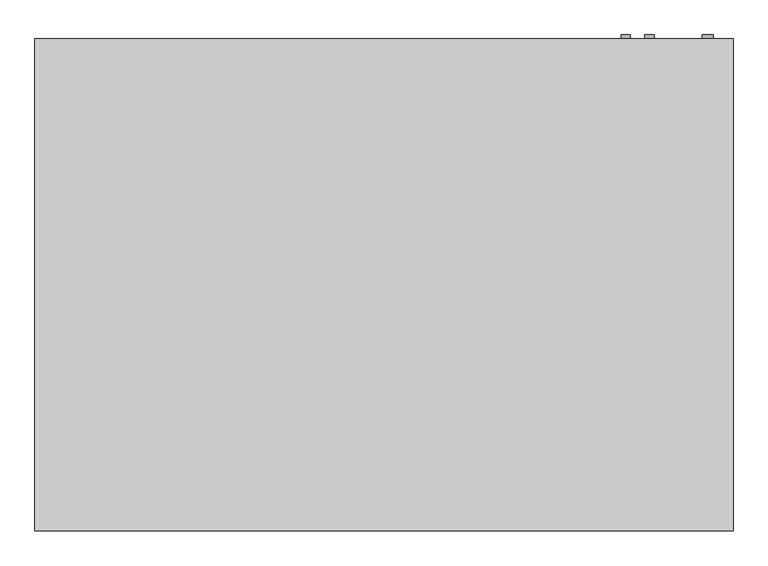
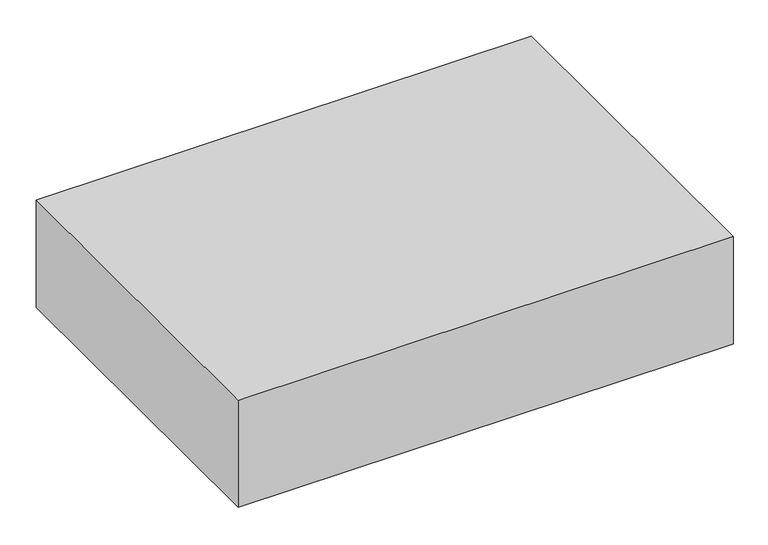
"""IFC4 building model written with IfcOpenShell, lengths in millimetres: proxy geometry, Exposed_Horizontal_Fan_Coil_Unit_-_42CGB_-_CARRIER_-_2-Pipe_Cool-EHeat_BS-BR_RH_2022 : Size 04 - 277v/60Hz/1Ph - 4 Row 3.0kW."""

from ifc_helpers import new_model, si_unit, point, frame, frame_2d, origin, place, context, project, spatial, polyline, circle_curve, trimmed, segment, composite_curve, outline, extrude, source, transform, mapped, element, save


def mechanical_equipment_0d85670f(model_context):
    return source(origin(), model_context, "Body", "SweptSolid", [
        extrude(outline(polyline([(481.0125, -433.3875), (481.0125, -579.4375), (-176.2125, -579.4375), (-176.2125, -433.3875), (481.0125, -433.3875)])), frame((0.0, 0.0, -285.75), z_axis=(0.0, 0.0, 1.0), x_axis=(1.0, 0.0, 0.0)), (0.0, 0.0, 1.0), 6.35),
        extrude(outline(composite_curve([segment(trimmed(circle_curve(frame_2d((-60.325, 574.675)), 7.9375), [point((-60.325, 582.6125))], [point((-60.325, 566.7375))], False, "CARTESIAN"), True, "CONTINUOUS"), segment(trimmed(circle_curve(frame_2d((-60.325, 574.675)), 7.9375), [point((-60.325, 566.7375))], [point((-60.325, 582.6125))], False, "CARTESIAN"), True, "CONTINUOUS")], self_intersect=False)), frame((0.0, 192.0875, 0.0), z_axis=(0.0, 1.0, 0.0), x_axis=(0.0, 0.0, 1.0)), (0.0, 0.0, 1.0), 6.35),
        extrude(outline(composite_curve([segment(trimmed(circle_curve(frame_2d((-95.25, 615.95)), 7.9375), [point((-95.25, 623.8875))], [point((-95.25, 608.0125))], False, "CARTESIAN"), True, "CONTINUOUS"), segment(trimmed(circle_curve(frame_2d((-95.25, 615.95)), 7.9375), [point((-95.25, 608.0125))], [point((-95.25, 623.8875))], False, "CARTESIAN"), True, "CONTINUOUS")], self_intersect=False)), frame((0.0, 192.0875, 0.0), z_axis=(0.0, 1.0, 0.0), x_axis=(0.0, 0.0, 1.0)), (0.0, 0.0, 1.0), 6.35),
        extrude(outline(composite_curve([segment(trimmed(circle_curve(frame_2d((-260.35, 717.55)), 9.525), [point((-260.35, 727.075))], [point((-260.35, 708.025))], False, "CARTESIAN"), True, "CONTINUOUS"), segment(trimmed(circle_curve(frame_2d((-260.35, 717.55)), 9.525), [point((-260.35, 708.025))], [point((-260.35, 727.075))], False, "CARTESIAN"), True, "CONTINUOUS")], self_intersect=False)), frame((0.0, 192.0875, 0.0), z_axis=(0.0, 1.0, 0.0), x_axis=(0.0, 0.0, 1.0)), (0.0, 0.0, 1.0), 6.35),
        extrude(outline(polyline([(-457.2, 192.0875), (762.0, 192.0875), (762.0, -668.3375), (-457.2, -668.3375), (-457.2, 192.0875)])), frame((0.0, 0.0, -279.4), z_axis=(0.0, 0.0, 1.0), x_axis=(1.0, 0.0, 0.0)), (0.0, 0.0, 1.0), 279.4),
        extrude(outline(polyline([(565.15, 115.8875), (565.15, -138.1125), (-260.35, -138.1125), (-260.35, 115.8875), (565.15, 115.8875)])), frame((0.0, 0.0, -285.75), z_axis=(0.0, 0.0, 1.0), x_axis=(1.0, 0.0, 0.0)), (0.0, 0.0, 1.0), 6.35),
    ])


if __name__ == "__main__":
    model = new_model("IFC4")
    model_context = context("Model", 3, world=origin())
    ifc_project = project(units=[si_unit("LENGTHUNIT", "METRE", prefix="MILLI")], contexts=[model_context])
    site = spatial("IfcSite", under=ifc_project)
    building = spatial("IfcBuilding", under=site)
    placement = place(None, origin())
    mechanical_equipment_shape = mechanical_equipment_0d85670f(model_context)
    element("IfcBuildingElementProxy", 1, Name="Exposed_Horizontal_Fan_Coil_Unit_-_42CGB_-_CARRIER_-_2-Pipe_Cool-EHeat_BS-BR_RH_2022 : Size 04 - 277v/60Hz/1Ph - 4 Row 3.0kW", ObjectType="Exposed_Horizontal_Fan_Coil_Unit_-_42CGB_-_CARRIER_-_2-Pipe_Cool-EHeat_BS-BR_RH_2022 : Size 04 - 277v/60Hz/1Ph - 4 Row 3.0kW", at=placement, inside=building, context=model_context, shape_type="MappedRepresentation", body=[
        mapped(mechanical_equipment_shape, transform((0.0, 0.0, 0.0), x_axis=(1.0, 0.0, 0.0), y_axis=(0.0, 1.0, 0.0), z_axis=(0.0, 0.0, 1.0))),
    ])
    save(model, "model.ifc")
